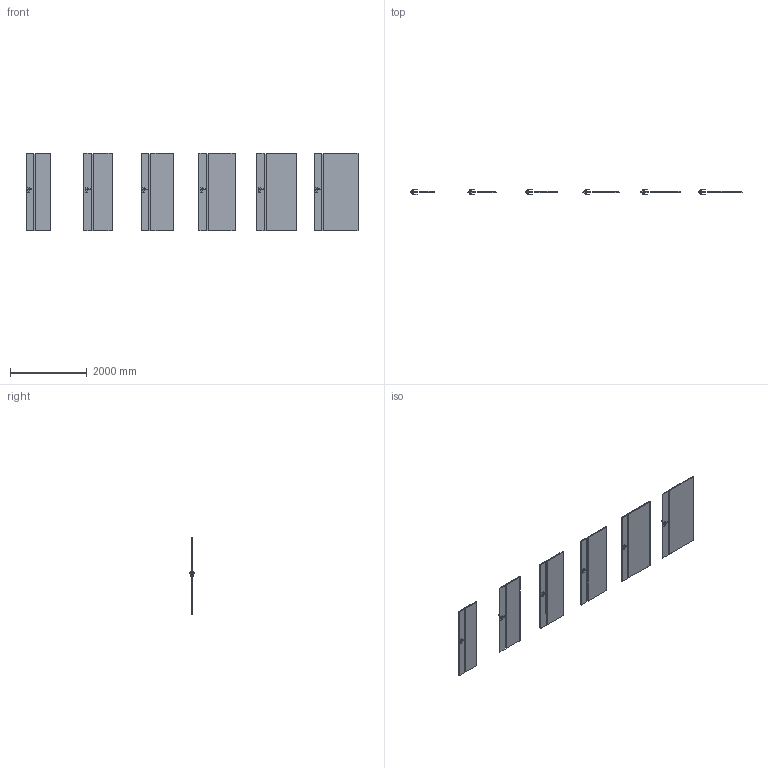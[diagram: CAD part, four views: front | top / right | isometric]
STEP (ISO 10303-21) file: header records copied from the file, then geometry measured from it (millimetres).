
FILE_DESCRIPTION(/* description */ (''),/* implementation_level */ '2;1');
FILE_NAME(/* name */ '049638_B_2-Skrzydło FOCUS model 4.A_ polska norma _PN__ przylgowe..stp',/* time_stamp */ '2024-01-29T12:12:23+01:00',/* author */ (''),/* organization */ (''),/* preprocessor_version */ 'ST-DEVELOPER v16',/* originating_system */ 'SIEMENS PLM Software NX 11.0',/* authorisation */ '');
FILE_SCHEMA (('AUTOMOTIVE_DESIGN { 1 0 10303 214 3 1 1 1 }'));
Length unit declared in the file: millimetre
Products named in the file (1): bkni51905E2E0hqw
Bounding box: 8644 x 153.27 x 2030 mm (x, y, z)
Volume: 399564009.9 mm3; surface area: 24210824 mm2
Topology: 30 solids, 30 shells, 1164 faces, 2748 edges, 1536 vertices
Faces by surface type: plane 540, cylinder 264, bspline 192, sphere 168
Entity records: 38596 total; most frequent: CARTESIAN_POINT 13705, ORIENTED_EDGE 5160, DIRECTION 4886, EDGE_CURVE 2580, AXIS2_PLACEMENT_3D 1693, VERTEX_POINT 1536, LINE 1500, VECTOR 1500
